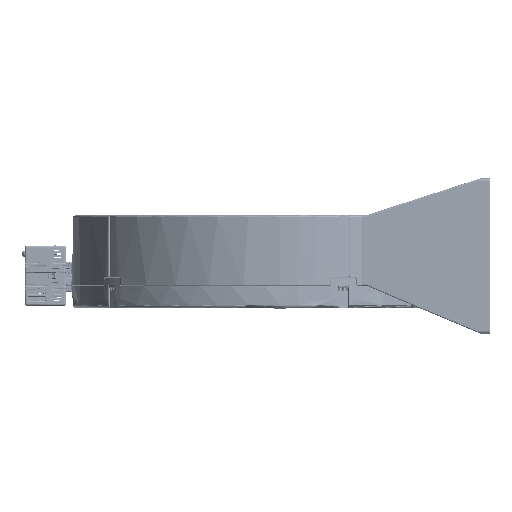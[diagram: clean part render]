
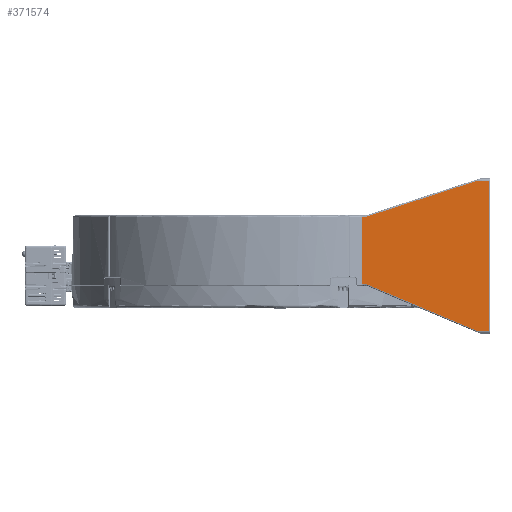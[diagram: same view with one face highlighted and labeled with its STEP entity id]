
A CAD part, left-side view. The second image highlights one B-rep face of the part: STEP entity #371574.
In plain terms, the highlighted planar face has unit normal (-1, 0, 0).
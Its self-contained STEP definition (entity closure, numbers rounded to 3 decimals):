
#2870 = CARTESIAN_POINT ( 'NONE',  ( -138.6, -152.65, 24.95 ) ) ;
#5020 = DIRECTION ( 'NONE',  ( 0., 1., 0. ) ) ;
#14682 = EDGE_CURVE ( 'NONE', #471824, #329689, #345523, .T. ) ;
#15271 = ORIENTED_EDGE ( 'NONE', *, *, #521488, .T. ) ;
#17111 = EDGE_CURVE ( 'NONE', #329689, #503896, #489095, .T. ) ;
#27088 = CARTESIAN_POINT ( 'NONE',  ( -138.6, -69.868, -52.958 ) ) ;
#30675 = VERTEX_POINT ( 'NONE', #463919 ) ;
#32339 = ORIENTED_EDGE ( 'NONE', *, *, #413076, .T. ) ;
#38166 = LINE ( 'NONE', #77829, #415174 ) ;
#38268 = ORIENTED_EDGE ( 'NONE', *, *, #115589, .T. ) ;
#41551 = CARTESIAN_POINT ( 'NONE',  ( -138.6, -60.217, -1. ) ) ;
#58178 = CARTESIAN_POINT ( 'NONE',  ( -138.6, -89.685, 7.788 ) ) ;
#72019 = VERTEX_POINT ( 'NONE', #473053 ) ;
#74497 = CARTESIAN_POINT ( 'NONE',  ( -138.6, -116.834, -72.867 ) ) ;
#75219 = ORIENTED_EDGE ( 'NONE', *, *, #279081, .T. ) ;
#77829 = CARTESIAN_POINT ( 'NONE',  ( -138.6, -146.15, 24.95 ) ) ;
#77837 = DIRECTION ( 'NONE',  ( 0., 0., -1. ) ) ;
#100904 = VERTEX_POINT ( 'NONE', #2870 ) ;
#103559 = EDGE_CURVE ( 'NONE', #72019, #100904, #432234, .T. ) ;
#108143 = CARTESIAN_POINT ( 'NONE',  ( -138.6, -116.333, 16.414 ) ) ;
#109457 = CARTESIAN_POINT ( 'NONE',  ( -138.6, -60.288, -50.05 ) ) ;
#114656 = DIRECTION ( 'NONE',  ( 0., 0., 1. ) ) ;
#115589 = EDGE_CURVE ( 'NONE', #329866, #30675, #250944, .T. ) ;
#129652 = CARTESIAN_POINT ( 'NONE',  ( -138.6, -60.288, -1.5 ) ) ;
#134536 = EDGE_LOOP ( 'NONE', ( #442504, #75219, #15271, #215907, #134773, #515242, #175865, #32339, #38268 ) ) ;
#134773 = ORIENTED_EDGE ( 'NONE', *, *, #17111, .T. ) ;
#137505 = CARTESIAN_POINT ( 'NONE',  ( -138.6, -76.373, 3.441 ) ) ;
#154500 = PLANE ( 'NONE',  #174668 ) ;
#159720 = DIRECTION ( 'NONE',  ( 0., 1., 0. ) ) ;
#174073 = EDGE_CURVE ( 'NONE', #30675, #437347, #285434, .T. ) ;
#174668 = AXIS2_PLACEMENT_3D ( 'NONE', #482547, #408369, #77837 ) ;
#175865 = ORIENTED_EDGE ( 'NONE', *, *, #103559, .T. ) ;
#194296 = FACE_OUTER_BOUND ( 'NONE', #134536, .T. ) ;
#203998 = CARTESIAN_POINT ( 'NONE',  ( -138.6, -143.753, -84.05 ) ) ;
#208672 = CARTESIAN_POINT ( 'NONE',  ( -138.6, -60.217, -1. ) ) ;
#209716 = LINE ( 'NONE', #246703, #514603 ) ;
#215907 = ORIENTED_EDGE ( 'NONE', *, *, #14682, .T. ) ;
#246703 = CARTESIAN_POINT ( 'NONE',  ( -138.6, -60.288, -50.05 ) ) ;
#250944 = B_SPLINE_CURVE_WITH_KNOTS ( 'NONE', 3,
 ( #383462, #269568, #108143, #58178, #137505, #343706 ),
 .UNSPECIFIED., .F., .F.,
 ( 4, 2, 4 ),
 ( 0., 0.042, 0.084 ),
 .UNSPECIFIED. ) ;
#257184 = DIRECTION ( 'NONE',  ( 0., 0., -1. ) ) ;
#267603 = CARTESIAN_POINT ( 'NONE',  ( -138.6, -143.753, -84.05 ) ) ;
#269568 = CARTESIAN_POINT ( 'NONE',  ( -138.6, -129.668, 20.69 ) ) ;
#279081 = EDGE_CURVE ( 'NONE', #437347, #504106, #345401, .T. ) ;
#285434 = LINE ( 'NONE', #486510, #369509 ) ;
#287908 = LINE ( 'NONE', #449245, #359874 ) ;
#304621 = CARTESIAN_POINT ( 'NONE',  ( -138.6, -63.186, -50.05 ) ) ;
#307342 = CARTESIAN_POINT ( 'NONE',  ( -138.6, -63.186, -50.05 ) ) ;
#307884 = CARTESIAN_POINT ( 'NONE',  ( -138.6, -152.65, -78.55 ) ) ;
#309879 = CARTESIAN_POINT ( 'NONE',  ( -138.6, -96.683, -64.389 ) ) ;
#310141 = VECTOR ( 'NONE', #504358, 1000. ) ;
#329689 = VERTEX_POINT ( 'NONE', #304621 ) ;
#329866 = VERTEX_POINT ( 'NONE', #348890 ) ;
#342911 = CARTESIAN_POINT ( 'NONE',  ( -138.6, -153.15, -50.05 ) ) ;
#343706 = CARTESIAN_POINT ( 'NONE',  ( -138.6, -63.091, -1. ) ) ;
#345401 = B_SPLINE_CURVE_WITH_KNOTS ( 'NONE', 3,
 ( #41551, #491159, #464463, #416991 ),
 .UNSPECIFIED., .F., .F.,
 ( 4, 4 ),
 ( 0., 0.001 ),
 .UNSPECIFIED. ) ;
#345523 = LINE ( 'NONE', #342911, #310141 ) ;
#348890 = CARTESIAN_POINT ( 'NONE',  ( -138.6, -143.009, 24.95 ) ) ;
#349641 = CARTESIAN_POINT ( 'NONE',  ( -138.6, -89.971, -61.551 ) ) ;
#359874 = VECTOR ( 'NONE', #409623, 1000. ) ;
#367912 = CARTESIAN_POINT ( 'NONE',  ( -138.6, -130.29, -78.468 ) ) ;
#369509 = VECTOR ( 'NONE', #5020, 1000. ) ;
#371574 = ADVANCED_FACE ( 'NONE', ( #194296 ), #154500, .F. ) ;
#383462 = CARTESIAN_POINT ( 'NONE',  ( -138.6, -143.009, 24.95 ) ) ;
#394674 = CARTESIAN_POINT ( 'NONE',  ( -138.6, -76.564, -55.835 ) ) ;
#400133 = EDGE_CURVE ( 'NONE', #503896, #72019, #287908, .T. ) ;
#408369 = DIRECTION ( 'NONE',  ( 1., 0., 0. ) ) ;
#409623 = DIRECTION ( 'NONE',  ( 0., -1., 0. ) ) ;
#413076 = EDGE_CURVE ( 'NONE', #100904, #329866, #38166, .T. ) ;
#415174 = VECTOR ( 'NONE', #159720, 1000. ) ;
#416991 = CARTESIAN_POINT ( 'NONE',  ( -138.6, -60.288, -1.5 ) ) ;
#421602 = VECTOR ( 'NONE', #114656, 1000. ) ;
#432234 = LINE ( 'NONE', #307884, #421602 ) ;
#437347 = VERTEX_POINT ( 'NONE', #208672 ) ;
#442504 = ORIENTED_EDGE ( 'NONE', *, *, #174073, .T. ) ;
#449245 = CARTESIAN_POINT ( 'NONE',  ( -138.6, -153.15, -84.05 ) ) ;
#463919 = CARTESIAN_POINT ( 'NONE',  ( -138.6, -63.091, -1. ) ) ;
#464463 = CARTESIAN_POINT ( 'NONE',  ( -138.6, -60.288, -1.33 ) ) ;
#471824 = VERTEX_POINT ( 'NONE', #109457 ) ;
#473053 = CARTESIAN_POINT ( 'NONE',  ( -138.6, -152.65, -84.05 ) ) ;
#482547 = CARTESIAN_POINT ( 'NONE',  ( -138.6, -153.15, -78.55 ) ) ;
#486510 = CARTESIAN_POINT ( 'NONE',  ( -138.6, -153.15, -1. ) ) ;
#489095 = B_SPLINE_CURVE_WITH_KNOTS ( 'NONE', 3,
 ( #307342, #27088, #394674, #349641, #309879, #74497, #367912, #203998 ),
 .UNSPECIFIED., .F., .F.,
 ( 4, 2, 2, 4 ),
 ( 0., 0.022, 0.044, 0.087 ),
 .UNSPECIFIED. ) ;
#491159 = CARTESIAN_POINT ( 'NONE',  ( -138.6, -60.264, -1.163 ) ) ;
#503896 = VERTEX_POINT ( 'NONE', #267603 ) ;
#504106 = VERTEX_POINT ( 'NONE', #129652 ) ;
#504358 = DIRECTION ( 'NONE',  ( 0., -1., 0. ) ) ;
#514603 = VECTOR ( 'NONE', #257184, 1000. ) ;
#515242 = ORIENTED_EDGE ( 'NONE', *, *, #400133, .T. ) ;
#521488 = EDGE_CURVE ( 'NONE', #504106, #471824, #209716, .T. ) ;
